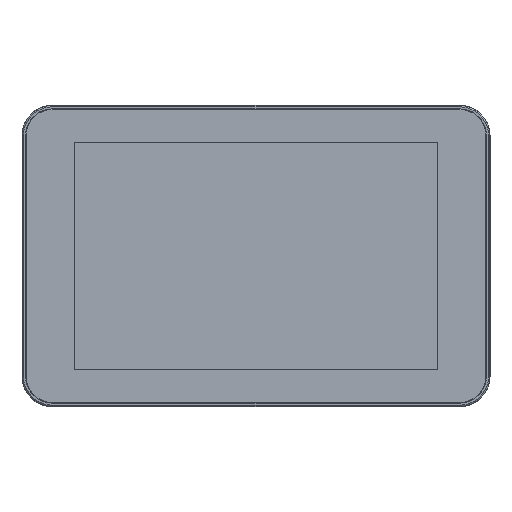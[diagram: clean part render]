
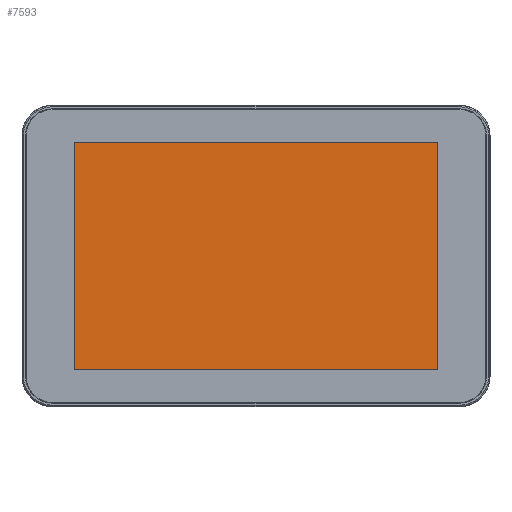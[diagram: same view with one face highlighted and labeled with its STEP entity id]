
A CAD part, top view. The second image highlights one B-rep face of the part: STEP entity #7593.
In plain terms, the highlighted planar face has unit normal (0, 0, 1).
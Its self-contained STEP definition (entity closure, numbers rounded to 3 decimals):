
#5999 = CARTESIAN_POINT ( 'NONE',  ( -108.48, 67.8, 3.61 ) ) ;
#7593 = ADVANCED_FACE ( 'NONE', ( #62096 ), #110745, .T. ) ;
#13526 = DIRECTION ( 'NONE',  ( 0., 0., -1. ) ) ;
#15668 = EDGE_CURVE ( 'NONE', #32628, #139343, #99078, .T. ) ;
#16681 = CARTESIAN_POINT ( 'NONE',  ( 108.48, 67.8, 3.61 ) ) ;
#17389 = VERTEX_POINT ( 'NONE', #115769 ) ;
#17951 = VECTOR ( 'NONE', #127558, 1000. ) ;
#19173 = EDGE_CURVE ( 'NONE', #68724, #127985, #126010, .T. ) ;
#21079 = AXIS2_PLACEMENT_3D ( 'NONE', #16681, #13526, #99726 ) ;
#22186 = EDGE_CURVE ( 'NONE', #127985, #33062, #53613, .T. ) ;
#27656 = CARTESIAN_POINT ( 'NONE',  ( -108.48, -67.8, 3.61 ) ) ;
#28229 = DIRECTION ( 'NONE',  ( 1., 0., 0. ) ) ;
#29220 = DIRECTION ( 'NONE',  ( 0., 0., -1. ) ) ;
#32018 = VERTEX_POINT ( 'NONE', #38872 ) ;
#32314 = VECTOR ( 'NONE', #88278, 1000. ) ;
#32628 = VERTEX_POINT ( 'NONE', #76028 ) ;
#33062 = VERTEX_POINT ( 'NONE', #107485 ) ;
#35932 = EDGE_CURVE ( 'NONE', #139343, #17389, #111166, .T. ) ;
#37740 = CARTESIAN_POINT ( 'NONE',  ( 0., 68.3, 3.61 ) ) ;
#38872 = CARTESIAN_POINT ( 'NONE',  ( -108.48, -68.3, 3.61 ) ) ;
#38972 = CARTESIAN_POINT ( 'NONE',  ( 108.98, 67.8, 3.61 ) ) ;
#41143 = DIRECTION ( 'NONE',  ( 0., 0., -1. ) ) ;
#42333 = EDGE_LOOP ( 'NONE', ( #44299, #135400, #99483, #148757, #137562, #122216, #65896, #116033 ) ) ;
#44299 = ORIENTED_EDGE ( 'NONE', *, *, #22186, .F. ) ;
#46760 = AXIS2_PLACEMENT_3D ( 'NONE', #27656, #29220, #77954 ) ;
#53613 = CIRCLE ( 'NONE', #142729, 0.5 ) ;
#58828 = CARTESIAN_POINT ( 'NONE',  ( 108.98, -67.8, 3.61 ) ) ;
#62096 = FACE_OUTER_BOUND ( 'NONE', #42333, .T. ) ;
#65896 = ORIENTED_EDGE ( 'NONE', *, *, #108456, .F. ) ;
#66189 = VECTOR ( 'NONE', #101549, 1000. ) ;
#68724 = VERTEX_POINT ( 'NONE', #38972 ) ;
#72300 = CIRCLE ( 'NONE', #46760, 0.5 ) ;
#72785 = DIRECTION ( 'NONE',  ( -1., 0., 0. ) ) ;
#74090 = DIRECTION ( 'NONE',  ( 0., 0., 1. ) ) ;
#76028 = CARTESIAN_POINT ( 'NONE',  ( -108.98, 67.8, 3.61 ) ) ;
#77954 = DIRECTION ( 'NONE',  ( 1., 0., 0. ) ) ;
#84737 = CARTESIAN_POINT ( 'NONE',  ( 0., -68.3, 3.61 ) ) ;
#85247 = DIRECTION ( 'NONE',  ( 1., 0., 0. ) ) ;
#87139 = CARTESIAN_POINT ( 'NONE',  ( -108.48, 68.3, 3.61 ) ) ;
#88278 = DIRECTION ( 'NONE',  ( 0., 1., 0. ) ) ;
#88910 = CARTESIAN_POINT ( 'NONE',  ( 108.48, -67.8, 3.61 ) ) ;
#89947 = CIRCLE ( 'NONE', #21079, 0.5 ) ;
#92973 = DIRECTION ( 'NONE',  ( 1., 0., 0. ) ) ;
#95652 = CARTESIAN_POINT ( 'NONE',  ( 0., 0., 3.61 ) ) ;
#98532 = AXIS2_PLACEMENT_3D ( 'NONE', #95652, #74090, #85247 ) ;
#98666 = LINE ( 'NONE', #124132, #32314 ) ;
#99078 = CIRCLE ( 'NONE', #119399, 0.5 ) ;
#99483 = ORIENTED_EDGE ( 'NONE', *, *, #152520, .F. ) ;
#99726 = DIRECTION ( 'NONE',  ( 1., 0., 0. ) ) ;
#101549 = DIRECTION ( 'NONE',  ( 1., 0., 0. ) ) ;
#101641 = DIRECTION ( 'NONE',  ( 0., 0., -1. ) ) ;
#107485 = CARTESIAN_POINT ( 'NONE',  ( 108.48, -68.3, 3.61 ) ) ;
#108456 = EDGE_CURVE ( 'NONE', #32018, #112916, #72300, .T. ) ;
#110745 = PLANE ( 'NONE',  #98532 ) ;
#111166 = LINE ( 'NONE', #37740, #66189 ) ;
#112916 = VERTEX_POINT ( 'NONE', #146634 ) ;
#115769 = CARTESIAN_POINT ( 'NONE',  ( 108.48, 68.3, 3.61 ) ) ;
#116033 = ORIENTED_EDGE ( 'NONE', *, *, #128889, .F. ) ;
#119399 = AXIS2_PLACEMENT_3D ( 'NONE', #5999, #41143, #92973 ) ;
#122216 = ORIENTED_EDGE ( 'NONE', *, *, #145807, .F. ) ;
#124132 = CARTESIAN_POINT ( 'NONE',  ( -108.98, 0., 3.61 ) ) ;
#126010 = LINE ( 'NONE', #138757, #17951 ) ;
#127558 = DIRECTION ( 'NONE',  ( 0., -1., 0. ) ) ;
#127985 = VERTEX_POINT ( 'NONE', #58828 ) ;
#128889 = EDGE_CURVE ( 'NONE', #33062, #32018, #134932, .T. ) ;
#134932 = LINE ( 'NONE', #84737, #137710 ) ;
#135400 = ORIENTED_EDGE ( 'NONE', *, *, #19173, .F. ) ;
#137562 = ORIENTED_EDGE ( 'NONE', *, *, #15668, .F. ) ;
#137710 = VECTOR ( 'NONE', #72785, 1000. ) ;
#138757 = CARTESIAN_POINT ( 'NONE',  ( 108.98, 0., 3.61 ) ) ;
#139343 = VERTEX_POINT ( 'NONE', #87139 ) ;
#142729 = AXIS2_PLACEMENT_3D ( 'NONE', #88910, #101641, #28229 ) ;
#145807 = EDGE_CURVE ( 'NONE', #112916, #32628, #98666, .T. ) ;
#146634 = CARTESIAN_POINT ( 'NONE',  ( -108.98, -67.8, 3.61 ) ) ;
#148757 = ORIENTED_EDGE ( 'NONE', *, *, #35932, .F. ) ;
#152520 = EDGE_CURVE ( 'NONE', #17389, #68724, #89947, .T. ) ;
